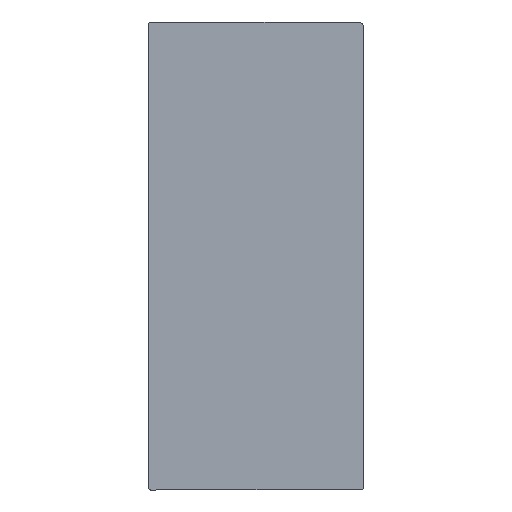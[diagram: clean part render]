
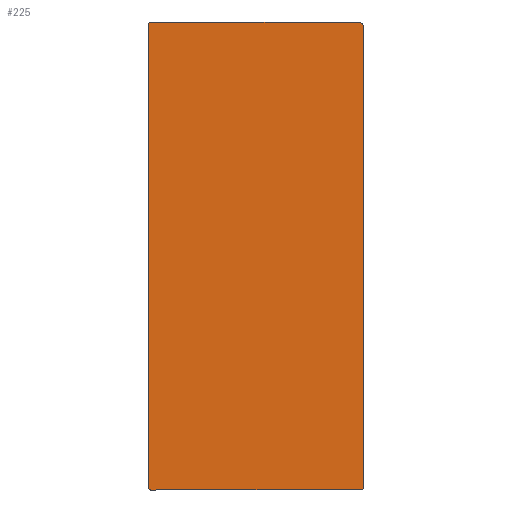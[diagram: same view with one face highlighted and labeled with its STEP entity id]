
A CAD part, left-side view. The second image highlights one B-rep face of the part: STEP entity #225.
In plain terms, the highlighted planar face has unit normal (-1, 0, 0).
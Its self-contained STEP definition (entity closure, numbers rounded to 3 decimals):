
#141 = VERTEX_POINT( '', #384 );
#197 = VERTEX_POINT( '', #447 );
#205 = EDGE_CURVE( '', #141, #229, #455, .T. );
#225 = ADVANCED_FACE( '', ( #478 ), #479, .F. );
#229 = VERTEX_POINT( '', #483 );
#247 = EDGE_CURVE( '', #197, #271, #503, .T. );
#257 = EDGE_CURVE( '', #313, #349, #515, .T. );
#271 = VERTEX_POINT( '', #529 );
#285 = VERTEX_POINT( '', #544 );
#287 = EDGE_CURVE( '', #271, #285, #546, .T. );
#289 = VERTEX_POINT( '', #548 );
#293 = EDGE_CURVE( '', #349, #289, #552, .T. );
#305 = EDGE_CURVE( '', #289, #141, #564, .T. );
#313 = VERTEX_POINT( '', #574 );
#337 = EDGE_CURVE( '', #285, #313, #600, .T. );
#349 = VERTEX_POINT( '', #614 );
#361 = EDGE_CURVE( '', #229, #197, #627, .T. );
#384 = CARTESIAN_POINT( '', ( 0., -11.25, 44.5 ) );
#447 = CARTESIAN_POINT( '', ( 0., -11.75, -1.3 ) );
#455 = CIRCLE( '', #742, 0.5 );
#478 = FACE_OUTER_BOUND( '', #772, .T. );
#479 = PLANE( '', #773 );
#483 = CARTESIAN_POINT( '', ( 0., -11.75, 44. ) );
#503 = CIRCLE( '', #804, 0.2 );
#515 = LINE( '', #819, #820 );
#529 = CARTESIAN_POINT( '', ( 0., -11.55, -1.5 ) );
#544 = CARTESIAN_POINT( '', ( 0., 9.15, -1.5 ) );
#546 = LINE( '', #863, #864 );
#548 = CARTESIAN_POINT( '', ( 0., 9.15, 44.5 ) );
#552 = CIRCLE( '', #871, 0.2 );
#564 = LINE( '', #887, #888 );
#574 = CARTESIAN_POINT( '', ( 0., 9.35, -1.3 ) );
#600 = CIRCLE( '', #933, 0.2 );
#614 = CARTESIAN_POINT( '', ( 0., 9.35, 44.3 ) );
#627 = LINE( '', #969, #970 );
#742 = AXIS2_PLACEMENT_3D( '', #1069, #1070, #1071 );
#772 = EDGE_LOOP( '', ( #1101, #1102, #1103, #1104, #1105, #1106, #1107, #1108 ) );
#773 = AXIS2_PLACEMENT_3D( '', #1109, #1110, #1111 );
#804 = AXIS2_PLACEMENT_3D( '', #1136, #1137, #1138 );
#819 = CARTESIAN_POINT( '', ( 0., 9.35, -1.3 ) );
#820 = VECTOR( '', #1156, 1. );
#863 = CARTESIAN_POINT( '', ( 0., -11.55, -1.5 ) );
#864 = VECTOR( '', #1173, 1. );
#871 = AXIS2_PLACEMENT_3D( '', #1174, #1175, #1176 );
#887 = CARTESIAN_POINT( '', ( 0., 9.15, 44.5 ) );
#888 = VECTOR( '', #1180, 1. );
#933 = AXIS2_PLACEMENT_3D( '', #1226, #1227, #1228 );
#969 = CARTESIAN_POINT( '', ( 0., -11.75, 44. ) );
#970 = VECTOR( '', #1262, 1. );
#1069 = CARTESIAN_POINT( '', ( 0., -11.25, 44. ) );
#1070 = DIRECTION( '', ( 1., 0., 0. ) );
#1071 = DIRECTION( '', ( 0., 0., 1. ) );
#1101 = ORIENTED_EDGE( '', *, *, #205, .F. );
#1102 = ORIENTED_EDGE( '', *, *, #305, .F. );
#1103 = ORIENTED_EDGE( '', *, *, #293, .F. );
#1104 = ORIENTED_EDGE( '', *, *, #257, .F. );
#1105 = ORIENTED_EDGE( '', *, *, #337, .F. );
#1106 = ORIENTED_EDGE( '', *, *, #287, .F. );
#1107 = ORIENTED_EDGE( '', *, *, #247, .F. );
#1108 = ORIENTED_EDGE( '', *, *, #361, .F. );
#1109 = CARTESIAN_POINT( '', ( 0., 0., 0. ) );
#1110 = DIRECTION( '', ( 1., 0., 0. ) );
#1111 = DIRECTION( '', ( 0., 0., -1. ) );
#1136 = CARTESIAN_POINT( '', ( 0., -11.55, -1.3 ) );
#1137 = DIRECTION( '', ( 1., 0., 0. ) );
#1138 = DIRECTION( '', ( 0., -1., 0. ) );
#1156 = DIRECTION( '', ( 0., 0., 1. ) );
#1173 = DIRECTION( '', ( 0., 1., 0. ) );
#1174 = CARTESIAN_POINT( '', ( 0., 9.15, 44.3 ) );
#1175 = DIRECTION( '', ( 1., 0., 0. ) );
#1176 = DIRECTION( '', ( 0., 1., 0. ) );
#1180 = DIRECTION( '', ( 0., -1., 0. ) );
#1226 = CARTESIAN_POINT( '', ( 0., 9.15, -1.3 ) );
#1227 = DIRECTION( '', ( 1., 0., 0. ) );
#1228 = DIRECTION( '', ( 0., 0., -1. ) );
#1262 = DIRECTION( '', ( 0., 0., -1. ) );
